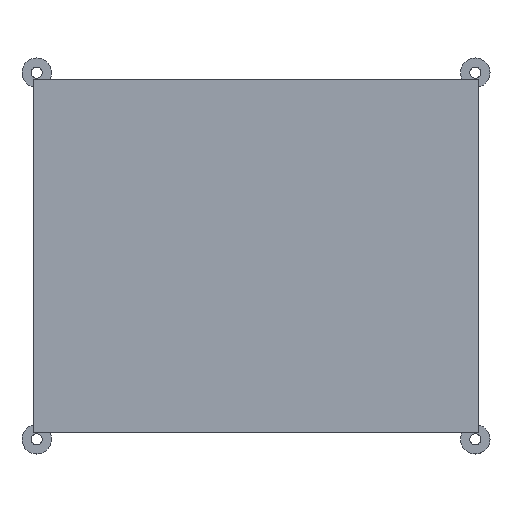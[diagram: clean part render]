
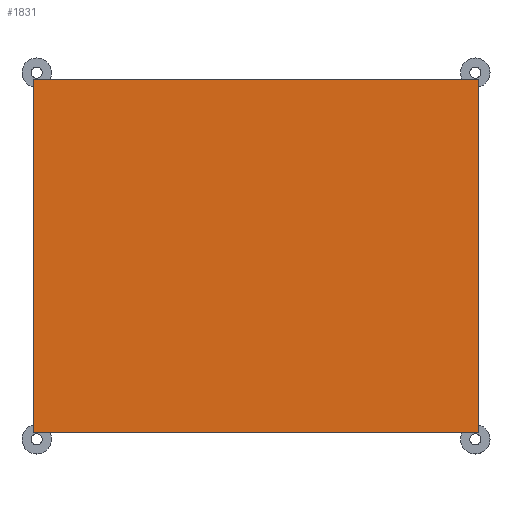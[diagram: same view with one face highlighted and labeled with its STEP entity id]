
A CAD part, top view. The second image highlights one B-rep face of the part: STEP entity #1831.
In plain terms, the highlighted planar face has unit normal (0, 0, 1).
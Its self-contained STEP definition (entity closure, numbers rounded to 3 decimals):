
#101 = PLANE('',#102);
#102 = AXIS2_PLACEMENT_3D('',#103,#104,#105);
#103 = CARTESIAN_POINT('',(3.5,114.5,0.));
#104 = DIRECTION('',(-0.,1.,0.));
#105 = DIRECTION('',(0.,0.,1.));
#206 = PLANE('',#207);
#207 = AXIS2_PLACEMENT_3D('',#208,#209,#210);
#208 = CARTESIAN_POINT('',(3.5,6.5,0.));
#209 = DIRECTION('',(1.,0.,-0.));
#210 = DIRECTION('',(0.,0.,1.));
#438 = VERTEX_POINT('',#439);
#439 = CARTESIAN_POINT('',(3.5,114.5,48.));
#460 = EDGE_CURVE('',#438,#461,#463,.T.);
#461 = VERTEX_POINT('',#462);
#462 = CARTESIAN_POINT('',(139.5,114.5,48.));
#463 = SURFACE_CURVE('',#464,(#468,#475),.PCURVE_S1.);
#464 = LINE('',#465,#466);
#465 = CARTESIAN_POINT('',(3.5,114.5,48.));
#466 = VECTOR('',#467,1.);
#467 = DIRECTION('',(1.,0.,-0.));
#468 = PCURVE('',#101,#469);
#469 = DEFINITIONAL_REPRESENTATION('',(#470),#474);
#470 = LINE('',#471,#472);
#471 = CARTESIAN_POINT('',(48.,0.));
#472 = VECTOR('',#473,1.);
#473 = DIRECTION('',(0.,1.));
#474 = ( GEOMETRIC_REPRESENTATION_CONTEXT(2) 
PARAMETRIC_REPRESENTATION_CONTEXT() REPRESENTATION_CONTEXT('2D SPACE',''
  ) );
#475 = PCURVE('',#476,#481);
#476 = PLANE('',#477);
#477 = AXIS2_PLACEMENT_3D('',#478,#479,#480);
#478 = CARTESIAN_POINT('',(3.5,6.5,48.));
#479 = DIRECTION('',(0.,0.,1.));
#480 = DIRECTION('',(1.,0.,-0.));
#481 = DEFINITIONAL_REPRESENTATION('',(#482),#486);
#482 = LINE('',#483,#484);
#483 = CARTESIAN_POINT('',(0.,108.));
#484 = VECTOR('',#485,1.);
#485 = DIRECTION('',(1.,0.));
#486 = ( GEOMETRIC_REPRESENTATION_CONTEXT(2) 
PARAMETRIC_REPRESENTATION_CONTEXT() REPRESENTATION_CONTEXT('2D SPACE',''
  ) );
#504 = PLANE('',#505);
#505 = AXIS2_PLACEMENT_3D('',#506,#507,#508);
#506 = CARTESIAN_POINT('',(139.5,6.5,0.));
#507 = DIRECTION('',(1.,0.,-0.));
#508 = DIRECTION('',(0.,0.,1.));
#754 = EDGE_CURVE('',#755,#438,#757,.T.);
#755 = VERTEX_POINT('',#756);
#756 = CARTESIAN_POINT('',(3.5,6.5,48.));
#757 = SURFACE_CURVE('',#758,(#762,#769),.PCURVE_S1.);
#758 = LINE('',#759,#760);
#759 = CARTESIAN_POINT('',(3.5,6.5,48.));
#760 = VECTOR('',#761,1.);
#761 = DIRECTION('',(-0.,1.,0.));
#762 = PCURVE('',#206,#763);
#763 = DEFINITIONAL_REPRESENTATION('',(#764),#768);
#764 = LINE('',#765,#766);
#765 = CARTESIAN_POINT('',(48.,0.));
#766 = VECTOR('',#767,1.);
#767 = DIRECTION('',(0.,-1.));
#768 = ( GEOMETRIC_REPRESENTATION_CONTEXT(2) 
PARAMETRIC_REPRESENTATION_CONTEXT() REPRESENTATION_CONTEXT('2D SPACE',''
  ) );
#769 = PCURVE('',#476,#770);
#770 = DEFINITIONAL_REPRESENTATION('',(#771),#775);
#771 = LINE('',#772,#773);
#772 = CARTESIAN_POINT('',(0.,0.));
#773 = VECTOR('',#774,1.);
#774 = DIRECTION('',(0.,1.));
#775 = ( GEOMETRIC_REPRESENTATION_CONTEXT(2) 
PARAMETRIC_REPRESENTATION_CONTEXT() REPRESENTATION_CONTEXT('2D SPACE',''
  ) );
#793 = PLANE('',#794);
#794 = AXIS2_PLACEMENT_3D('',#795,#796,#797);
#795 = CARTESIAN_POINT('',(3.5,6.5,0.));
#796 = DIRECTION('',(-0.,1.,0.));
#797 = DIRECTION('',(0.,0.,1.));
#1559 = EDGE_CURVE('',#1560,#461,#1562,.T.);
#1560 = VERTEX_POINT('',#1561);
#1561 = CARTESIAN_POINT('',(139.5,6.5,48.));
#1562 = SURFACE_CURVE('',#1563,(#1567,#1574),.PCURVE_S1.);
#1563 = LINE('',#1564,#1565);
#1564 = CARTESIAN_POINT('',(139.5,6.5,48.));
#1565 = VECTOR('',#1566,1.);
#1566 = DIRECTION('',(-0.,1.,0.));
#1567 = PCURVE('',#504,#1568);
#1568 = DEFINITIONAL_REPRESENTATION('',(#1569),#1573);
#1569 = LINE('',#1570,#1571);
#1570 = CARTESIAN_POINT('',(48.,0.));
#1571 = VECTOR('',#1572,1.);
#1572 = DIRECTION('',(0.,-1.));
#1573 = ( GEOMETRIC_REPRESENTATION_CONTEXT(2) 
PARAMETRIC_REPRESENTATION_CONTEXT() REPRESENTATION_CONTEXT('2D SPACE',''
  ) );
#1574 = PCURVE('',#476,#1575);
#1575 = DEFINITIONAL_REPRESENTATION('',(#1576),#1580);
#1576 = LINE('',#1577,#1578);
#1577 = CARTESIAN_POINT('',(136.,0.));
#1578 = VECTOR('',#1579,1.);
#1579 = DIRECTION('',(0.,1.));
#1580 = ( GEOMETRIC_REPRESENTATION_CONTEXT(2) 
PARAMETRIC_REPRESENTATION_CONTEXT() REPRESENTATION_CONTEXT('2D SPACE',''
  ) );
#1831 = ADVANCED_FACE('',(#1832),#476,.T.);
#1832 = FACE_BOUND('',#1833,.T.);
#1833 = EDGE_LOOP('',(#1834,#1835,#1856,#1857));
#1834 = ORIENTED_EDGE('',*,*,#754,.F.);
#1835 = ORIENTED_EDGE('',*,*,#1836,.T.);
#1836 = EDGE_CURVE('',#755,#1560,#1837,.T.);
#1837 = SURFACE_CURVE('',#1838,(#1842,#1849),.PCURVE_S1.);
#1838 = LINE('',#1839,#1840);
#1839 = CARTESIAN_POINT('',(3.5,6.5,48.));
#1840 = VECTOR('',#1841,1.);
#1841 = DIRECTION('',(1.,0.,-0.));
#1842 = PCURVE('',#476,#1843);
#1843 = DEFINITIONAL_REPRESENTATION('',(#1844),#1848);
#1844 = LINE('',#1845,#1846);
#1845 = CARTESIAN_POINT('',(0.,0.));
#1846 = VECTOR('',#1847,1.);
#1847 = DIRECTION('',(1.,0.));
#1848 = ( GEOMETRIC_REPRESENTATION_CONTEXT(2) 
PARAMETRIC_REPRESENTATION_CONTEXT() REPRESENTATION_CONTEXT('2D SPACE',''
  ) );
#1849 = PCURVE('',#793,#1850);
#1850 = DEFINITIONAL_REPRESENTATION('',(#1851),#1855);
#1851 = LINE('',#1852,#1853);
#1852 = CARTESIAN_POINT('',(48.,0.));
#1853 = VECTOR('',#1854,1.);
#1854 = DIRECTION('',(0.,1.));
#1855 = ( GEOMETRIC_REPRESENTATION_CONTEXT(2) 
PARAMETRIC_REPRESENTATION_CONTEXT() REPRESENTATION_CONTEXT('2D SPACE',''
  ) );
#1856 = ORIENTED_EDGE('',*,*,#1559,.T.);
#1857 = ORIENTED_EDGE('',*,*,#460,.F.);
